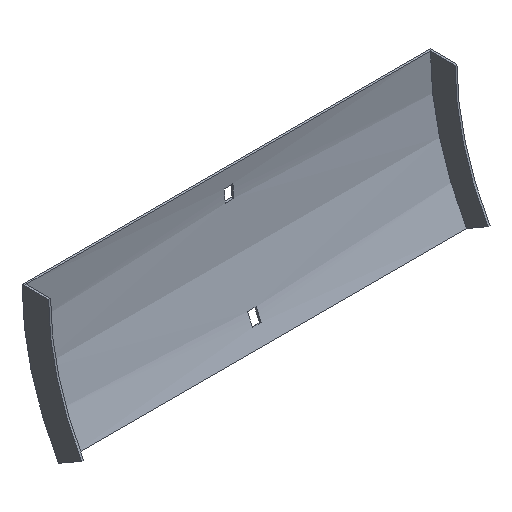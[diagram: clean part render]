
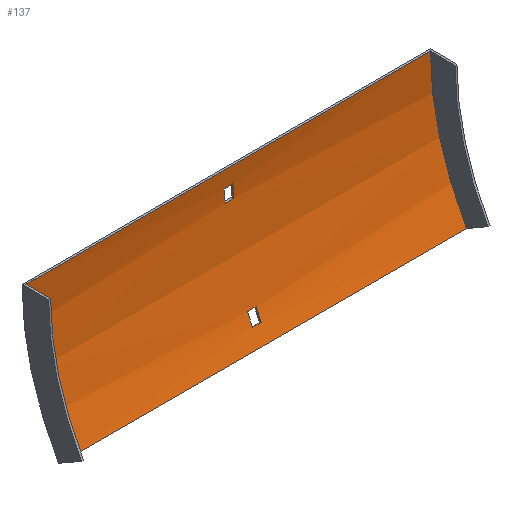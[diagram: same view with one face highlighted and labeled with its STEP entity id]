
A CAD part, isometric view. The second image highlights one B-rep face of the part: STEP entity #137.
In plain terms, the highlighted cylindrical face has radius 204 mm (diameter 408 mm), a partial arc.
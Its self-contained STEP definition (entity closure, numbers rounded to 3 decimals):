
#2 = VECTOR ( 'NONE', #193, 1000. ) ;
#6 = CARTESIAN_POINT ( 'NONE',  ( 3.25, -23.137, -91.431 ) ) ;
#8 = LINE ( 'NONE', #387, #146 ) ;
#9 = DIRECTION ( 'NONE',  ( -1., 0., 0. ) ) ;
#11 = AXIS2_PLACEMENT_3D ( 'NONE', #289, #23, #251 ) ;
#23 = DIRECTION ( 'NONE',  ( 1., 0., 0. ) ) ;
#43 = EDGE_LOOP ( 'NONE', ( #454, #505, #602, #305 ) ) ;
#51 = LINE ( 'NONE', #474, #511 ) ;
#53 = EDGE_CURVE ( 'NONE', #123, #132, #577, .T. ) ;
#54 = CARTESIAN_POINT ( 'NONE',  ( 3.25, -2.584, -21. ) ) ;
#62 = CYLINDRICAL_SURFACE ( 'NONE', #266, 204. ) ;
#68 = CARTESIAN_POINT ( 'NONE',  ( -152., -28.831, -102. ) ) ;
#77 = VERTEX_POINT ( 'NONE', #54 ) ;
#79 = DIRECTION ( 'NONE',  ( 1., 0., 0. ) ) ;
#85 = EDGE_CURVE ( 'NONE', #475, #415, #51, .T. ) ;
#99 = ORIENTED_EDGE ( 'NONE', *, *, #288, .F. ) ;
#101 = DIRECTION ( 'NONE',  ( 1., 0., 0. ) ) ;
#102 = EDGE_CURVE ( 'NONE', #585, #322, #559, .T. ) ;
#107 = LINE ( 'NONE', #524, #110 ) ;
#110 = VECTOR ( 'NONE', #429, 1000. ) ;
#111 = CARTESIAN_POINT ( 'NONE',  ( 3.25, -1.853, -12. ) ) ;
#123 = VERTEX_POINT ( 'NONE', #252 ) ;
#127 = DIRECTION ( 'NONE',  ( 1., 0., 0. ) ) ;
#132 = VERTEX_POINT ( 'NONE', #199 ) ;
#137 = ADVANCED_FACE ( 'NONE', ( #381, #151, #533 ), #62, .F. ) ;
#140 = VERTEX_POINT ( 'NONE', #111 ) ;
#146 = VECTOR ( 'NONE', #149, 1000. ) ;
#149 = DIRECTION ( 'NONE',  ( -1., 0., 0. ) ) ;
#151 = FACE_OUTER_BOUND ( 'NONE', #358, .T. ) ;
#168 = CARTESIAN_POINT ( 'NONE',  ( 3.25, -19.269, -83.272 ) ) ;
#170 = VECTOR ( 'NONE', #101, 1000. ) ;
#171 = VERTEX_POINT ( 'NONE', #68 ) ;
#174 = CARTESIAN_POINT ( 'NONE',  ( -3.25, -23.137, -91.431 ) ) ;
#175 = ORIENTED_EDGE ( 'NONE', *, *, #521, .T. ) ;
#177 = CARTESIAN_POINT ( 'NONE',  ( 3.25, -205.5, 0. ) ) ;
#178 = ORIENTED_EDGE ( 'NONE', *, *, #85, .T. ) ;
#180 = DIRECTION ( 'NONE',  ( 0., 0., 1. ) ) ;
#182 = AXIS2_PLACEMENT_3D ( 'NONE', #601, #127, #180 ) ;
#186 = CIRCLE ( 'NONE', #403, 204. ) ;
#193 = DIRECTION ( 'NONE',  ( -1., 0., 0. ) ) ;
#199 = CARTESIAN_POINT ( 'NONE',  ( -152., -1.5, 0. ) ) ;
#206 = DIRECTION ( 'NONE',  ( 0., 0., 1. ) ) ;
#214 = EDGE_CURVE ( 'NONE', #597, #123, #470, .T. ) ;
#230 = VECTOR ( 'NONE', #516, 1000. ) ;
#237 = CIRCLE ( 'NONE', #255, 204. ) ;
#248 = DIRECTION ( 'NONE',  ( 0., 0., 1. ) ) ;
#249 = EDGE_CURVE ( 'NONE', #372, #475, #186, .T. ) ;
#251 = DIRECTION ( 'NONE',  ( 0., 0., 1. ) ) ;
#252 = CARTESIAN_POINT ( 'NONE',  ( 152., -1.5, 0. ) ) ;
#254 = DIRECTION ( 'NONE',  ( -1., 0., 0. ) ) ;
#255 = AXIS2_PLACEMENT_3D ( 'NONE', #177, #79, #408 ) ;
#266 = AXIS2_PLACEMENT_3D ( 'NONE', #290, #336, #206 ) ;
#268 = CIRCLE ( 'NONE', #319, 204. ) ;
#269 = ORIENTED_EDGE ( 'NONE', *, *, #53, .T. ) ;
#271 = VERTEX_POINT ( 'NONE', #441 ) ;
#277 = ORIENTED_EDGE ( 'NONE', *, *, #249, .T. ) ;
#288 = EDGE_CURVE ( 'NONE', #171, #132, #300, .T. ) ;
#289 = CARTESIAN_POINT ( 'NONE',  ( 152., -205.5, 0. ) ) ;
#290 = CARTESIAN_POINT ( 'NONE',  ( 153.5, -205.5, 0. ) ) ;
#294 = CARTESIAN_POINT ( 'NONE',  ( 3.25, -205.5, 0. ) ) ;
#296 = EDGE_CURVE ( 'NONE', #77, #140, #237, .T. ) ;
#300 = CIRCLE ( 'NONE', #182, 204. ) ;
#305 = ORIENTED_EDGE ( 'NONE', *, *, #540, .F. ) ;
#306 = CARTESIAN_POINT ( 'NONE',  ( -3.25, -1.853, -12. ) ) ;
#307 = LINE ( 'NONE', #455, #230 ) ;
#314 = ORIENTED_EDGE ( 'NONE', *, *, #464, .F. ) ;
#315 = EDGE_CURVE ( 'NONE', #140, #585, #307, .T. ) ;
#319 = AXIS2_PLACEMENT_3D ( 'NONE', #439, #497, #399 ) ;
#322 = VERTEX_POINT ( 'NONE', #504 ) ;
#331 = EDGE_LOOP ( 'NONE', ( #178, #508, #175, #277 ) ) ;
#336 = DIRECTION ( 'NONE',  ( -1., 0., 0. ) ) ;
#358 = EDGE_LOOP ( 'NONE', ( #99, #314, #549, #269 ) ) ;
#367 = AXIS2_PLACEMENT_3D ( 'NONE', #566, #421, #248 ) ;
#372 = VERTEX_POINT ( 'NONE', #168 ) ;
#381 = FACE_BOUND ( 'NONE', #43, .T. ) ;
#387 = CARTESIAN_POINT ( 'NONE',  ( 152., -28.831, -102. ) ) ;
#389 = CARTESIAN_POINT ( 'NONE',  ( 152., -1.5, 0. ) ) ;
#399 = DIRECTION ( 'NONE',  ( 0., 0., -1. ) ) ;
#403 = AXIS2_PLACEMENT_3D ( 'NONE', #294, #254, #430 ) ;
#408 = DIRECTION ( 'NONE',  ( 0., 0., -1. ) ) ;
#415 = VERTEX_POINT ( 'NONE', #174 ) ;
#421 = DIRECTION ( 'NONE',  ( -1., 0., 0. ) ) ;
#429 = DIRECTION ( 'NONE',  ( 1., 0., 0. ) ) ;
#430 = DIRECTION ( 'NONE',  ( 0., 0., 1. ) ) ;
#439 = CARTESIAN_POINT ( 'NONE',  ( -3.25, -205.5, 0. ) ) ;
#441 = CARTESIAN_POINT ( 'NONE',  ( -3.25, -19.269, -83.272 ) ) ;
#454 = ORIENTED_EDGE ( 'NONE', *, *, #102, .F. ) ;
#455 = CARTESIAN_POINT ( 'NONE',  ( 153.5, -1.853, -12. ) ) ;
#464 = EDGE_CURVE ( 'NONE', #597, #171, #8, .T. ) ;
#470 = CIRCLE ( 'NONE', #11, 204. ) ;
#474 = CARTESIAN_POINT ( 'NONE',  ( 153.5, -23.137, -91.431 ) ) ;
#475 = VERTEX_POINT ( 'NONE', #6 ) ;
#482 = LINE ( 'NONE', #574, #170 ) ;
#497 = DIRECTION ( 'NONE',  ( 1., 0., 0. ) ) ;
#504 = CARTESIAN_POINT ( 'NONE',  ( -3.25, -2.584, -21. ) ) ;
#505 = ORIENTED_EDGE ( 'NONE', *, *, #315, .F. ) ;
#508 = ORIENTED_EDGE ( 'NONE', *, *, #565, .T. ) ;
#511 = VECTOR ( 'NONE', #9, 1000. ) ;
#516 = DIRECTION ( 'NONE',  ( -1., 0., 0. ) ) ;
#521 = EDGE_CURVE ( 'NONE', #271, #372, #107, .T. ) ;
#524 = CARTESIAN_POINT ( 'NONE',  ( 153.5, -19.269, -83.272 ) ) ;
#533 = FACE_BOUND ( 'NONE', #331, .T. ) ;
#540 = EDGE_CURVE ( 'NONE', #322, #77, #482, .T. ) ;
#547 = CARTESIAN_POINT ( 'NONE',  ( 152., -28.831, -102. ) ) ;
#549 = ORIENTED_EDGE ( 'NONE', *, *, #214, .T. ) ;
#559 = CIRCLE ( 'NONE', #367, 204. ) ;
#565 = EDGE_CURVE ( 'NONE', #415, #271, #268, .T. ) ;
#566 = CARTESIAN_POINT ( 'NONE',  ( -3.25, -205.5, 0. ) ) ;
#574 = CARTESIAN_POINT ( 'NONE',  ( 153.5, -2.584, -21. ) ) ;
#577 = LINE ( 'NONE', #389, #2 ) ;
#585 = VERTEX_POINT ( 'NONE', #306 ) ;
#597 = VERTEX_POINT ( 'NONE', #547 ) ;
#601 = CARTESIAN_POINT ( 'NONE',  ( -152., -205.5, 0. ) ) ;
#602 = ORIENTED_EDGE ( 'NONE', *, *, #296, .F. ) ;
